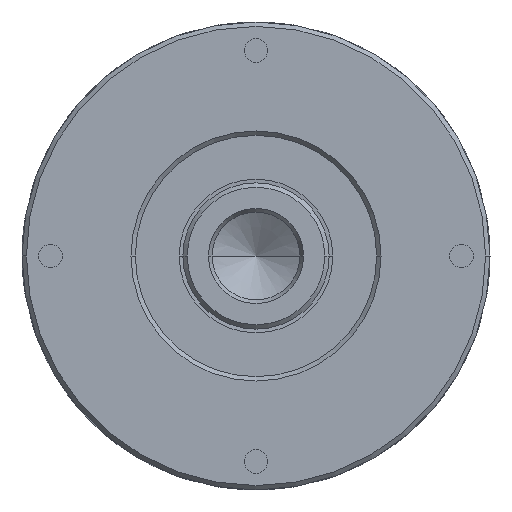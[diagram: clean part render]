
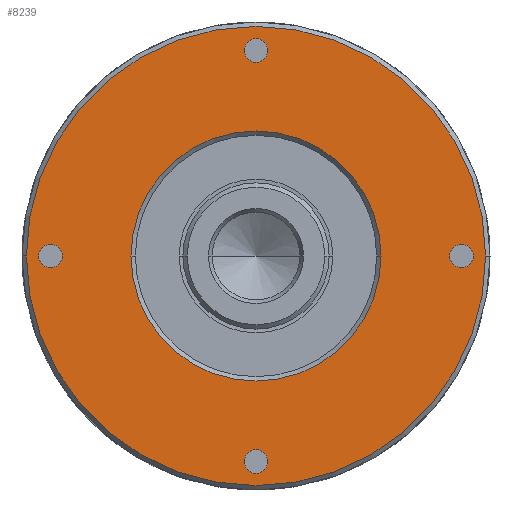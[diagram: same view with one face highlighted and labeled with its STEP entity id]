
A CAD part, left-side view. The second image highlights one B-rep face of the part: STEP entity #8239.
In plain terms, the highlighted planar face has unit normal (-1, 0, 0).
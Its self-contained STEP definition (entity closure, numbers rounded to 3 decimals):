
#7518=CARTESIAN_POINT('',(-4.9,14.05,0.));
#7519=DIRECTION('',(-1.,0.,0.));
#7520=DIRECTION('',(0.,-1.,0.));
#7521=AXIS2_PLACEMENT_3D('',#7518,#7519,#7520);
#7526=CARTESIAN_POINT('',(-4.9,14.05,0.));
#7527=DIRECTION('',(-1.,0.,0.));
#7528=DIRECTION('',(0.,1.,0.));
#7529=AXIS2_PLACEMENT_3D('',#7526,#7527,#7528);
#7534=CARTESIAN_POINT('',(-4.9,0.,14.05));
#7535=DIRECTION('',(-1.,0.,0.));
#7536=DIRECTION('',(0.,-1.,0.));
#7537=AXIS2_PLACEMENT_3D('',#7534,#7535,#7536);
#7542=CARTESIAN_POINT('',(-4.9,0.,14.05));
#7543=DIRECTION('',(-1.,0.,0.));
#7544=DIRECTION('',(0.,1.,0.));
#7545=AXIS2_PLACEMENT_3D('',#7542,#7543,#7544);
#7550=CARTESIAN_POINT('',(-4.9,-14.05,0.));
#7551=DIRECTION('',(-1.,0.,0.));
#7552=DIRECTION('',(0.,-1.,0.));
#7553=AXIS2_PLACEMENT_3D('',#7550,#7551,#7552);
#7558=CARTESIAN_POINT('',(-4.9,-14.05,0.));
#7559=DIRECTION('',(-1.,0.,0.));
#7560=DIRECTION('',(0.,1.,0.));
#7561=AXIS2_PLACEMENT_3D('',#7558,#7559,#7560);
#7566=CARTESIAN_POINT('',(-4.9,0.,-14.05));
#7567=DIRECTION('',(-1.,0.,0.));
#7568=DIRECTION('',(0.,-1.,0.));
#7569=AXIS2_PLACEMENT_3D('',#7566,#7567,#7568);
#7574=CARTESIAN_POINT('',(-4.9,0.,-14.05));
#7575=DIRECTION('',(-1.,0.,0.));
#7576=DIRECTION('',(0.,1.,0.));
#7577=AXIS2_PLACEMENT_3D('',#7574,#7575,#7576);
#7582=CARTESIAN_POINT('',(-4.9,0.,
0.));
#7583=DIRECTION('',(1.,0.,0.));
#7584=DIRECTION('',(0.,-1.,0.));
#7585=AXIS2_PLACEMENT_3D('',#7582,#7583,#7584);
#7590=CARTESIAN_POINT('',(-4.9,0.,
0.));
#7591=DIRECTION('',(1.,0.,0.));
#7592=DIRECTION('',(0.,1.,0.));
#7593=AXIS2_PLACEMENT_3D('',#7590,#7591,#7592);
#7598=CARTESIAN_POINT('',(-4.9,0.,0.));
#7599=DIRECTION('',(-1.,0.,0.));
#7600=DIRECTION('',(0.,-1.,0.));
#7601=AXIS2_PLACEMENT_3D('',#7598,#7599,#7600);
#7606=CARTESIAN_POINT('',(-4.9,0.,0.));
#7607=DIRECTION('',(-1.,0.,0.));
#7608=DIRECTION('',(0.,1.,0.));
#7609=AXIS2_PLACEMENT_3D('',#7606,#7607,#7608);
#8038=CARTESIAN_POINT('',(-4.9,13.25,0.));
#8039=CARTESIAN_POINT('',(-4.9,14.85,0.));
#8040=VERTEX_POINT('',#8038);
#8041=VERTEX_POINT('',#8039);
#8046=CARTESIAN_POINT('',(-4.9,-15.7,
0.));
#8047=CARTESIAN_POINT('',(-4.9,15.7,0.));
#8048=VERTEX_POINT('',#8046);
#8049=VERTEX_POINT('',#8047);
#8082=CARTESIAN_POINT('',(-4.9,-0.8,14.05));
#8083=VERTEX_POINT('',#8082);
#8084=CARTESIAN_POINT('',(-4.9,0.8,14.05));
#8085=VERTEX_POINT('',#8084);
#8086=CARTESIAN_POINT('',(-4.9,-14.85,0.));
#8087=VERTEX_POINT('',#8086);
#8088=CARTESIAN_POINT('',(-4.9,-13.25,0.));
#8089=VERTEX_POINT('',#8088);
#8090=CARTESIAN_POINT('',(-4.9,-0.8,-14.05));
#8091=VERTEX_POINT('',#8090);
#8092=CARTESIAN_POINT('',(-4.9,0.8,-14.05));
#8093=VERTEX_POINT('',#8092);
#8102=CARTESIAN_POINT('',(-4.9,-8.55,0.));
#8103=CARTESIAN_POINT('',(-4.9,8.55,0.));
#8104=VERTEX_POINT('',#8102);
#8105=VERTEX_POINT('',#8103);
#8200=CARTESIAN_POINT('',(-4.9,0.,0.));
#8201=DIRECTION('',(1.,0.,0.));
#8202=DIRECTION('',(0.,-1.,0.));
#8203=AXIS2_PLACEMENT_3D('',#8200,#8201,#8202);
#8204=PLANE('',#8203);
#8205=ORIENTED_EDGE('',*,*,#8180,.T.);
#8206=ORIENTED_EDGE('',*,*,#8194,.T.);
#8207=EDGE_LOOP('',(#8205,#8206));
#8208=FACE_OUTER_BOUND('',#8207,.F.);
#8210=ORIENTED_EDGE('',*,*,#8209,.T.);
#8212=ORIENTED_EDGE('',*,*,#8211,.T.);
#8213=EDGE_LOOP('',(#8210,#8212));
#8214=FACE_BOUND('',#8213,.F.);
#8216=ORIENTED_EDGE('',*,*,#8215,.T.);
#8218=ORIENTED_EDGE('',*,*,#8217,.T.);
#8219=EDGE_LOOP('',(#8216,#8218));
#8220=FACE_BOUND('',#8219,.F.);
#8222=ORIENTED_EDGE('',*,*,#8221,.T.);
#8224=ORIENTED_EDGE('',*,*,#8223,.T.);
#8225=EDGE_LOOP('',(#8222,#8224));
#8226=FACE_BOUND('',#8225,.F.);
#8228=ORIENTED_EDGE('',*,*,#8227,.T.);
#8230=ORIENTED_EDGE('',*,*,#8229,.T.);
#8231=EDGE_LOOP('',(#8228,#8230));
#8232=FACE_BOUND('',#8231,.F.);
#8234=ORIENTED_EDGE('',*,*,#8233,.T.);
#8236=ORIENTED_EDGE('',*,*,#8235,.T.);
#8237=EDGE_LOOP('',(#8234,#8236));
#8238=FACE_BOUND('',#8237,.F.);
#7522=CIRCLE('',#7521,0.8);
#7530=CIRCLE('',#7529,0.8);
#7538=CIRCLE('',#7537,0.8);
#7546=CIRCLE('',#7545,0.8);
#7554=CIRCLE('',#7553,0.8);
#7562=CIRCLE('',#7561,0.8);
#7570=CIRCLE('',#7569,0.8);
#7578=CIRCLE('',#7577,0.8);
#7586=CIRCLE('',#7585,15.7);
#7594=CIRCLE('',#7593,15.7);
#7602=CIRCLE('',#7601,8.55);
#7610=CIRCLE('',#7609,8.55);
#8180=EDGE_CURVE('',#8048,#8049,#7586,.T.);
#8194=EDGE_CURVE('',#8049,#8048,#7594,.T.);
#8209=EDGE_CURVE('',#8083,#8085,#7538,.T.);
#8211=EDGE_CURVE('',#8085,#8083,#7546,.T.);
#8215=EDGE_CURVE('',#8087,#8089,#7554,.T.);
#8217=EDGE_CURVE('',#8089,#8087,#7562,.T.);
#8221=EDGE_CURVE('',#8091,#8093,#7570,.T.);
#8223=EDGE_CURVE('',#8093,#8091,#7578,.T.);
#8227=EDGE_CURVE('',#8040,#8041,#7522,.T.);
#8229=EDGE_CURVE('',#8041,#8040,#7530,.T.);
#8233=EDGE_CURVE('',#8104,#8105,#7602,.T.);
#8235=EDGE_CURVE('',#8105,#8104,#7610,.T.);
#8239=ADVANCED_FACE('',(#8208,#8214,#8220,#8226,#8232,#8238),#8204,.F.);
